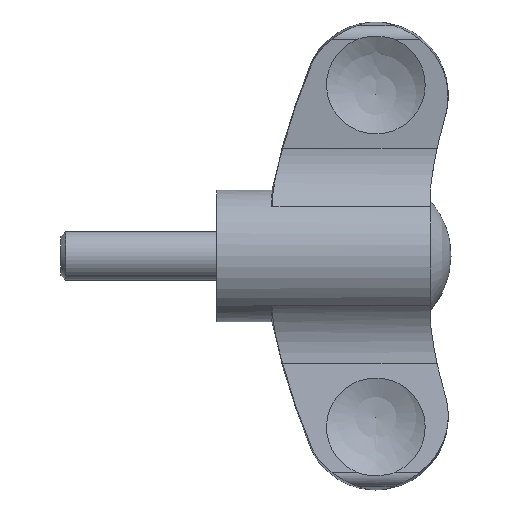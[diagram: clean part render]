
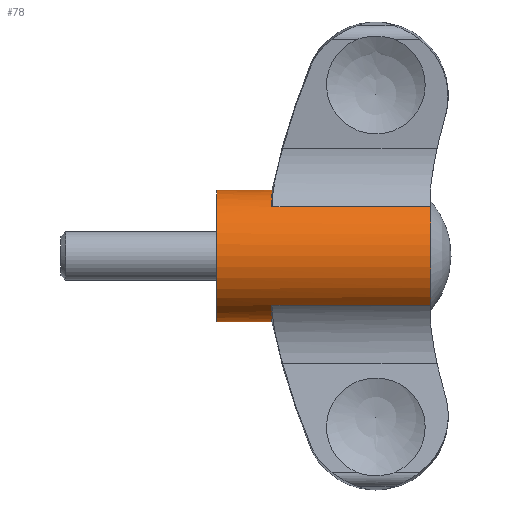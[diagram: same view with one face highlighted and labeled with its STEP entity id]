
A CAD part, top view. The second image highlights one B-rep face of the part: STEP entity #78.
In plain terms, the highlighted cylindrical face has radius 6.75 mm (diameter 13.5 mm), a full revolution.
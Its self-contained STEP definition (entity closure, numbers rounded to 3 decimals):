
#78 = ADVANCED_FACE( '', ( #117, #118 ), #119, .T. );
#117 = FACE_OUTER_BOUND( '', #194, .T. );
#118 = FACE_OUTER_BOUND( '', #195, .T. );
#119 = CYLINDRICAL_SURFACE( '', #196, 6.75 );
#194 = EDGE_LOOP( '', ( #325 ) );
#195 = EDGE_LOOP( '', ( #326, #327, #328, #329, #330, #331, #332, #333 ) );
#196 = AXIS2_PLACEMENT_3D( '', #334, #335, #336 );
#325 = ORIENTED_EDGE( '', *, *, #580, .F. );
#326 = ORIENTED_EDGE( '', *, *, #581, .T. );
#327 = ORIENTED_EDGE( '', *, *, #573, .F. );
#328 = ORIENTED_EDGE( '', *, *, #582, .F. );
#329 = ORIENTED_EDGE( '', *, *, #583, .T. );
#330 = ORIENTED_EDGE( '', *, *, #584, .T. );
#331 = ORIENTED_EDGE( '', *, *, #585, .F. );
#332 = ORIENTED_EDGE( '', *, *, #586, .F. );
#333 = ORIENTED_EDGE( '', *, *, #587, .T. );
#334 = CARTESIAN_POINT( '', ( 0., 0., 0. ) );
#335 = DIRECTION( '', ( 1., 0., 0. ) );
#336 = DIRECTION( '', ( 0., -1., 0. ) );
#573 = EDGE_CURVE( '', #662, #664, #665, .T. );
#580 = EDGE_CURVE( '', #675, #675, #676, .T. );
#581 = EDGE_CURVE( '', #677, #664, #678, .T. );
#582 = EDGE_CURVE( '', #679, #662, #680, .F. );
#583 = EDGE_CURVE( '', #679, #681, #682, .T. );
#584 = EDGE_CURVE( '', #681, #683, #684, .T. );
#585 = EDGE_CURVE( '', #685, #683, #686, .T. );
#586 = EDGE_CURVE( '', #687, #685, #688, .F. );
#587 = EDGE_CURVE( '', #687, #677, #689, .T. );
#662 = VERTEX_POINT( '', #802 );
#664 = VERTEX_POINT( '', #804 );
#665 = LINE( '', #805, #806 );
#675 = VERTEX_POINT( '', #837 );
#676 = CIRCLE( '', #838, 6.75 );
#677 = VERTEX_POINT( '', #839 );
#678 = CIRCLE( '', #840, 6.75 );
#679 = VERTEX_POINT( '', #841 );
#680 = CIRCLE( '', #842, 6.75 );
#681 = VERTEX_POINT( '', #843 );
#682 = LINE( '', #844, #845 );
#683 = VERTEX_POINT( '', #846 );
#684 = CIRCLE( '', #847, 6.75 );
#685 = VERTEX_POINT( '', #848 );
#686 = LINE( '', #849, #850 );
#687 = VERTEX_POINT( '', #851 );
#688 = CIRCLE( '', #852, 6.75 );
#689 = LINE( '', #853, #854 );
#802 = CARTESIAN_POINT( '', ( 21.931, -5.038, 4.492 ) );
#804 = CARTESIAN_POINT( '', ( 5.637, -5.038, 4.492 ) );
#805 = CARTESIAN_POINT( '', ( 27.5, -5.038, 4.492 ) );
#806 = VECTOR( '', #1392, 1000. );
#837 = CARTESIAN_POINT( '', ( 0., -6.75, 0. ) );
#838 = AXIS2_PLACEMENT_3D( '', #1400, #1401, #1402 );
#839 = CARTESIAN_POINT( '', ( 5.637, -5.038, -4.492 ) );
#840 = AXIS2_PLACEMENT_3D( '', #1403, #1404, #1405 );
#841 = CARTESIAN_POINT( '', ( 21.931, 5.038, 4.492 ) );
#842 = AXIS2_PLACEMENT_3D( '', #1406, #1407, #1408 );
#843 = CARTESIAN_POINT( '', ( 5.637, 5.038, 4.492 ) );
#844 = CARTESIAN_POINT( '', ( 27.5, 5.038, 4.492 ) );
#845 = VECTOR( '', #1409, 1000. );
#846 = CARTESIAN_POINT( '', ( 5.637, 5.038, -4.492 ) );
#847 = AXIS2_PLACEMENT_3D( '', #1410, #1411, #1412 );
#848 = CARTESIAN_POINT( '', ( 21.931, 5.038, -4.492 ) );
#849 = CARTESIAN_POINT( '', ( 27.5, 5.038, -4.492 ) );
#850 = VECTOR( '', #1413, 1000. );
#851 = CARTESIAN_POINT( '', ( 21.931, -5.038, -4.492 ) );
#852 = AXIS2_PLACEMENT_3D( '', #1414, #1415, #1416 );
#853 = CARTESIAN_POINT( '', ( 27.5, -5.038, -4.492 ) );
#854 = VECTOR( '', #1417, 1000. );
#1392 = DIRECTION( '', ( -1., 0., 0. ) );
#1400 = CARTESIAN_POINT( '', ( 0., 0., 0. ) );
#1401 = DIRECTION( '', ( -1., 0., 0. ) );
#1402 = DIRECTION( '', ( 0., -1., 0. ) );
#1403 = CARTESIAN_POINT( '', ( 5.637, 0., 0. ) );
#1404 = DIRECTION( '', ( -1., 0., 0. ) );
#1405 = DIRECTION( '', ( 0., -1., 0. ) );
#1406 = CARTESIAN_POINT( '', ( 21.931, 0., 0. ) );
#1407 = DIRECTION( '', ( -1., 0., 0. ) );
#1408 = DIRECTION( '', ( 0., -1., 0. ) );
#1409 = DIRECTION( '', ( -1., 0., 0. ) );
#1410 = CARTESIAN_POINT( '', ( 5.637, 0., 0. ) );
#1411 = DIRECTION( '', ( -1., 0., 0. ) );
#1412 = DIRECTION( '', ( 0., -1., 0. ) );
#1413 = DIRECTION( '', ( -1., 0., 0. ) );
#1414 = CARTESIAN_POINT( '', ( 21.931, 0., 0. ) );
#1415 = DIRECTION( '', ( -1., 0., 0. ) );
#1416 = DIRECTION( '', ( 0., -1., 0. ) );
#1417 = DIRECTION( '', ( -1., 0., 0. ) );
